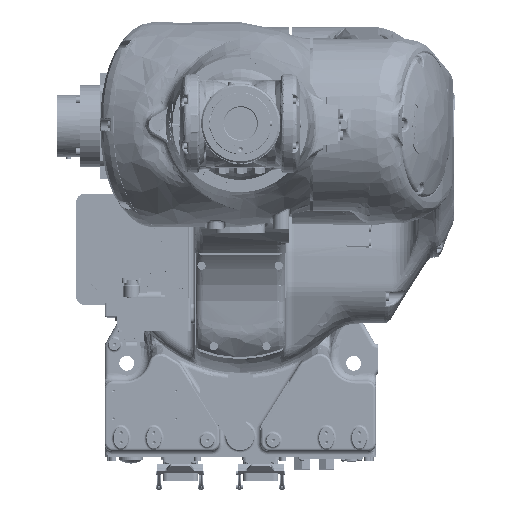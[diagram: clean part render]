
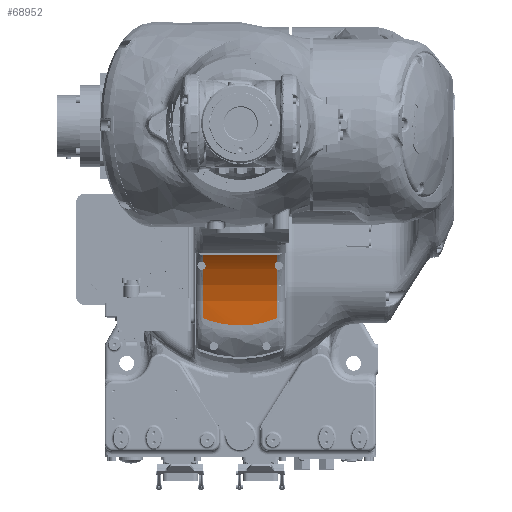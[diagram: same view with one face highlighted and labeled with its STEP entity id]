
A CAD part, top view. The second image highlights one B-rep face of the part: STEP entity #68952.
In plain terms, the highlighted cylindrical face has radius 130 mm (diameter 260 mm), a partial arc.
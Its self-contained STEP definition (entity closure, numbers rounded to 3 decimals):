
#66562=CARTESIAN_POINT('Vertex',(45.,-7.423,-48.)) ;
#66565=CARTESIAN_POINT('Axis2P3D Location',(45.,-95.407,47.702)) ;
#66569=CARTESIAN_POINT('Vertex',(45.,-15.417,-54.776)) ;
#66610=CARTESIAN_POINT('Vertex',(45.,-24.583,-61.311)) ;
#66613=CARTESIAN_POINT('Axis2P3D Location',(45.,-95.407,47.702)) ;
#66617=CARTESIAN_POINT('Vertex',(45.,-83.858,-81.784)) ;
#68415=CARTESIAN_POINT('Vertex',(-45.,-83.858,-81.784)) ;
#68418=CARTESIAN_POINT('Axis2P3D Location',(-45.,-95.407,47.702)) ;
#68422=CARTESIAN_POINT('Vertex',(-45.,-24.583,-61.311)) ;
#68466=CARTESIAN_POINT('Vertex',(-45.,-15.417,-54.776)) ;
#68469=CARTESIAN_POINT('Axis2P3D Location',(-45.,-95.407,47.702)) ;
#68473=CARTESIAN_POINT('Vertex',(-45.,-7.423,-48.)) ;
#68867=CARTESIAN_POINT('Line Origine',(0.,-7.423,-48.)) ;
#68879=CARTESIAN_POINT('Axis2P3D Location',(0.,-95.407,47.702)) ;
#68885=CARTESIAN_POINT('Control Point',(45.,-24.583,-61.311)) ;
#68886=CARTESIAN_POINT('Control Point',(43.826,-24.07,-60.978)) ;
#68887=CARTESIAN_POINT('Control Point',(42.873,-23.201,-60.409)) ;
#68888=CARTESIAN_POINT('Control Point',(42.294,-22.165,-59.714)) ;
#68889=CARTESIAN_POINT('Control Point',(42.,-21.078,-58.961)) ;
#68890=CARTESIAN_POINT('Control Point',(42.,-20.,-58.193)) ;
#68891=CARTESIAN_POINT('Vertex',(42.,-20.,-58.193)) ;
#68895=CARTESIAN_POINT('Control Point',(45.,-15.417,-54.776)) ;
#68896=CARTESIAN_POINT('Control Point',(43.818,-15.933,-55.178)) ;
#68897=CARTESIAN_POINT('Control Point',(42.885,-16.801,-55.85)) ;
#68898=CARTESIAN_POINT('Control Point',(42.309,-17.804,-56.608)) ;
#68899=CARTESIAN_POINT('Control Point',(42.,-18.9,-57.41)) ;
#68900=CARTESIAN_POINT('Control Point',(42.,-20.,-58.193)) ;
#68903=CARTESIAN_POINT('Control Point',(-45.,-15.417,-54.776)) ;
#68904=CARTESIAN_POINT('Control Point',(-43.818,-15.933,-55.178)) ;
#68905=CARTESIAN_POINT('Control Point',(-42.885,-16.801,-55.85)) ;
#68906=CARTESIAN_POINT('Control Point',(-42.309,-17.804,-56.608)) ;
#68907=CARTESIAN_POINT('Control Point',(-42.,-18.9,-57.41)) ;
#68908=CARTESIAN_POINT('Control Point',(-42.,-20.,-58.193)) ;
#68909=CARTESIAN_POINT('Vertex',(-42.,-20.,-58.193)) ;
#68913=CARTESIAN_POINT('Control Point',(-45.,-24.583,-61.311)) ;
#68914=CARTESIAN_POINT('Control Point',(-43.826,-24.07,-60.978)) ;
#68915=CARTESIAN_POINT('Control Point',(-42.873,-23.201,-60.409)) ;
#68916=CARTESIAN_POINT('Control Point',(-42.294,-22.165,-59.714)) ;
#68917=CARTESIAN_POINT('Control Point',(-42.,-21.078,-58.961)) ;
#68918=CARTESIAN_POINT('Control Point',(-42.,-20.,-58.193)) ;
#68921=CARTESIAN_POINT('Control Point',(43.771,-84.368,-81.828)) ;
#68922=CARTESIAN_POINT('Control Point',(36.123,-87.477,-82.093)) ;
#68923=CARTESIAN_POINT('Control Point',(28.059,-89.827,-82.2)) ;
#68924=CARTESIAN_POINT('Control Point',(19.758,-91.442,-82.242)) ;
#68925=CARTESIAN_POINT('Control Point',(1.486,-93.401,-82.286)) ;
#68926=CARTESIAN_POINT('Control Point',(-16.889,-92.023,-82.254)) ;
#68927=CARTESIAN_POINT('Control Point',(-26.651,-90.317,-82.223)) ;
#68928=CARTESIAN_POINT('Control Point',(-36.123,-87.608,-82.118)) ;
#68929=CARTESIAN_POINT('Control Point',(-45.,-83.858,-81.784)) ;
#68930=CARTESIAN_POINT('Vertex',(43.771,-84.368,-81.828)) ;
#68934=CARTESIAN_POINT('Control Point',(43.771,-84.368,-81.828)) ;
#68935=CARTESIAN_POINT('Control Point',(44.182,-84.2,-81.814)) ;
#68936=CARTESIAN_POINT('Control Point',(44.592,-84.031,-81.799)) ;
#68937=CARTESIAN_POINT('Control Point',(45.,-83.858,-81.784)) ;
#66566=DIRECTION('Axis2P3D Direction',(1.,0.,0.)) ;
#66614=DIRECTION('Axis2P3D Direction',(1.,0.,0.)) ;
#68419=DIRECTION('Axis2P3D Direction',(1.,0.,0.)) ;
#68470=DIRECTION('Axis2P3D Direction',(1.,0.,0.)) ;
#68868=DIRECTION('Vector Direction',(1.,0.,0.)) ;
#68880=DIRECTION('Axis2P3D Direction',(1.,0.,0.)) ;
#68881=DIRECTION('Axis2P3D XDirection',(0.,-1.,0.)) ;
#66567=AXIS2_PLACEMENT_3D('Circle Axis2P3D',#66565,#66566,$) ;
#66615=AXIS2_PLACEMENT_3D('Circle Axis2P3D',#66613,#66614,$) ;
#68420=AXIS2_PLACEMENT_3D('Circle Axis2P3D',#68418,#68419,$) ;
#68471=AXIS2_PLACEMENT_3D('Circle Axis2P3D',#68469,#68470,$) ;
#68882=AXIS2_PLACEMENT_3D('Cylinder Axis2P3D',#68879,#68880,#68881) ;
#68940=ORIENTED_EDGE('',*,*,#68893,.T.) ;
#68941=ORIENTED_EDGE('',*,*,#68901,.F.) ;
#68942=ORIENTED_EDGE('',*,*,#66571,.T.) ;
#68943=ORIENTED_EDGE('',*,*,#68871,.F.) ;
#68944=ORIENTED_EDGE('',*,*,#68475,.F.) ;
#68945=ORIENTED_EDGE('',*,*,#68911,.T.) ;
#68946=ORIENTED_EDGE('',*,*,#68919,.F.) ;
#68947=ORIENTED_EDGE('',*,*,#68424,.F.) ;
#68948=ORIENTED_EDGE('',*,*,#68932,.F.) ;
#68949=ORIENTED_EDGE('',*,*,#68938,.F.) ;
#68950=ORIENTED_EDGE('',*,*,#66619,.T.) ;
#68869=VECTOR('Line Direction',#68868,1.) ;
#68952=ADVANCED_FACE('J1',(#68951),#68883,.F.) ;
#68884=B_SPLINE_CURVE_WITH_KNOTS('',5,(#68885,#68886,#68887,#68888,#68889,#68890),.UNSPECIFIED.,.F.,.U.,(6,6),(0.,9.48),.UNSPECIFIED.) ;
#68894=B_SPLINE_CURVE_WITH_KNOTS('',5,(#68895,#68896,#68897,#68898,#68899,#68900),.UNSPECIFIED.,.F.,.U.,(6,6),(0.,9.67),.UNSPECIFIED.) ;
#68902=B_SPLINE_CURVE_WITH_KNOTS('',5,(#68903,#68904,#68905,#68906,#68907,#68908),.UNSPECIFIED.,.F.,.U.,(6,6),(0.,9.67),.UNSPECIFIED.) ;
#68912=B_SPLINE_CURVE_WITH_KNOTS('',5,(#68913,#68914,#68915,#68916,#68917,#68918),.UNSPECIFIED.,.F.,.U.,(6,6),(0.,9.48),.UNSPECIFIED.) ;
#68920=B_SPLINE_CURVE_WITH_KNOTS('',5,(#68921,#68922,#68923,#68924,#68925,#68926,#68927,#68928,#68929),.UNSPECIFIED.,.F.,.U.,(6,3,6),(0.,59.397,128.843),.UNSPECIFIED.) ;
#68933=B_SPLINE_CURVE_WITH_KNOTS('',3,(#68934,#68935,#68936,#68937),.UNSPECIFIED.,.F.,.U.,(4,4),(0.,1.883),.UNSPECIFIED.) ;
#66568=CIRCLE('generated circle',#66567,130.) ;
#66616=CIRCLE('generated circle',#66615,130.) ;
#68421=CIRCLE('generated circle',#68420,130.) ;
#68472=CIRCLE('generated circle',#68471,130.) ;
#68883=CYLINDRICAL_SURFACE('generated cylinder',#68882,130.) ;
#66571=EDGE_CURVE('',#66570,#66563,#66568,.T.) ;
#66619=EDGE_CURVE('',#66618,#66611,#66616,.T.) ;
#68424=EDGE_CURVE('',#68416,#68423,#68421,.T.) ;
#68475=EDGE_CURVE('',#68467,#68474,#68472,.T.) ;
#68871=EDGE_CURVE('',#68474,#66563,#68870,.T.) ;
#68893=EDGE_CURVE('',#66611,#68892,#68884,.T.) ;
#68901=EDGE_CURVE('',#66570,#68892,#68894,.T.) ;
#68911=EDGE_CURVE('',#68467,#68910,#68902,.T.) ;
#68919=EDGE_CURVE('',#68423,#68910,#68912,.T.) ;
#68932=EDGE_CURVE('',#68931,#68416,#68920,.T.) ;
#68938=EDGE_CURVE('',#66618,#68931,#68933,.F.) ;
#68939=EDGE_LOOP('',(#68940,#68941,#68942,#68943,#68944,#68945,#68946,#68947,#68948,#68949,#68950)) ;
#68951=FACE_OUTER_BOUND('',#68939,.T.) ;
#68870=LINE('Line',#68867,#68869) ;
#66563=VERTEX_POINT('',#66562) ;
#66570=VERTEX_POINT('',#66569) ;
#66611=VERTEX_POINT('',#66610) ;
#66618=VERTEX_POINT('',#66617) ;
#68416=VERTEX_POINT('',#68415) ;
#68423=VERTEX_POINT('',#68422) ;
#68467=VERTEX_POINT('',#68466) ;
#68474=VERTEX_POINT('',#68473) ;
#68892=VERTEX_POINT('',#68891) ;
#68910=VERTEX_POINT('',#68909) ;
#68931=VERTEX_POINT('',#68930) ;
